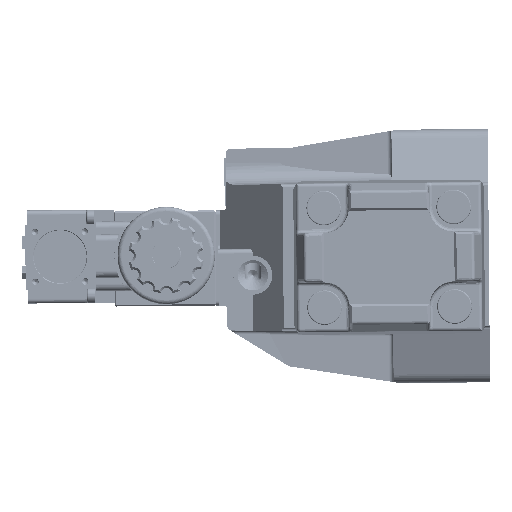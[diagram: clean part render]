
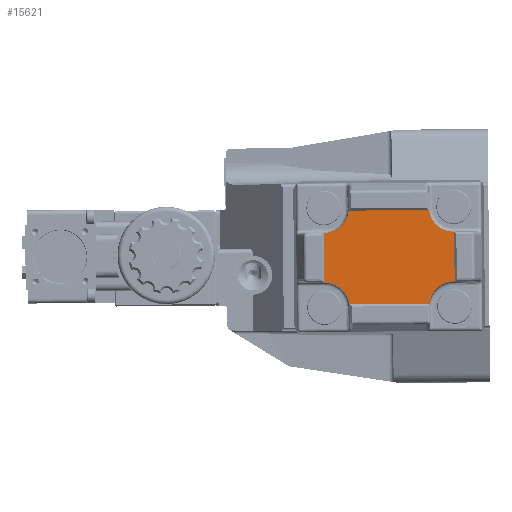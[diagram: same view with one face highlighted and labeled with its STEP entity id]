
A CAD part, left-side view. The second image highlights one B-rep face of the part: STEP entity #15621.
In plain terms, the highlighted planar face has unit normal (-1, 0, 0).
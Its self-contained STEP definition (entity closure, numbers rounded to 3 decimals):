
#12706=FACE_OUTER_BOUND('',#22832,.T.);
#15621=ADVANCED_FACE('',(#12706),#18068,.F.);
#18068=PLANE('',#64132);
#22832=EDGE_LOOP('',(#36052,#36053,#36054,#36055,#36056,#36057,#36058,#36059,
#36060,#36061,#36062,#36063));
#25280=B_SPLINE_CURVE_WITH_KNOTS('',3,(#196581,#196582,#196583,#196584,
#196585,#196586,#196587,#196588,#196589,#196590,#196591),.UNSPECIFIED.,
 .F.,.F.,(4,2,1,1,1,1,1,4),(0.,0.009,0.257,0.381,
0.504,0.628,0.752,1.),.UNSPECIFIED.);
#25308=B_SPLINE_CURVE_WITH_KNOTS('',3,(#197018,#197019,#197020,#197021),
 .UNSPECIFIED.,.F.,.F.,(4,4),(0.,1.),.UNSPECIFIED.);
#25353=B_SPLINE_CURVE_WITH_KNOTS('',3,(#197663,#197664,#197665,#197666,
#197667,#197668,#197669,#197670),.UNSPECIFIED.,.F.,.F.,(4,2,2,4),(0.,0.25,
0.5,1.),.UNSPECIFIED.);
#25354=B_SPLINE_CURVE_WITH_KNOTS('',3,(#197672,#197673,#197674,#197675,
#197676,#197677),.UNSPECIFIED.,.F.,.F.,(4,2,4),(0.,0.5,1.),
 .UNSPECIFIED.);
#25355=B_SPLINE_CURVE_WITH_KNOTS('',3,(#197679,#197680,#197681,#197682,
#197683,#197684),.UNSPECIFIED.,.F.,.F.,(4,2,4),(0.,0.5,1.),
 .UNSPECIFIED.);
#36052=ORIENTED_EDGE('',*,*,#51659,.T.);
#36053=ORIENTED_EDGE('',*,*,#51569,.T.);
#36054=ORIENTED_EDGE('',*,*,#51660,.F.);
#36055=ORIENTED_EDGE('',*,*,#51631,.F.);
#36056=ORIENTED_EDGE('',*,*,#51661,.T.);
#36057=ORIENTED_EDGE('',*,*,#51619,.T.);
#36058=ORIENTED_EDGE('',*,*,#51514,.T.);
#36059=ORIENTED_EDGE('',*,*,#51627,.F.);
#36060=ORIENTED_EDGE('',*,*,#51662,.T.);
#36061=ORIENTED_EDGE('',*,*,#51597,.F.);
#36062=ORIENTED_EDGE('',*,*,#51663,.T.);
#36063=ORIENTED_EDGE('',*,*,#51590,.F.);
#45538=VERTEX_POINT('',#196580);
#45539=VERTEX_POINT('',#196592);
#45593=VERTEX_POINT('',#197017);
#45594=VERTEX_POINT('',#197022);
#45612=VERTEX_POINT('',#197256);
#45613=VERTEX_POINT('',#197258);
#45617=VERTEX_POINT('',#197296);
#45618=VERTEX_POINT('',#197298);
#45631=VERTEX_POINT('',#197378);
#45635=VERTEX_POINT('',#197414);
#45637=VERTEX_POINT('',#197436);
#45638=VERTEX_POINT('',#197438);
#51514=EDGE_CURVE('',#45539,#45538,#25280,.T.);
#51569=EDGE_CURVE('',#45594,#45593,#25308,.T.);
#51590=EDGE_CURVE('',#45612,#45613,#56878,.T.);
#51597=EDGE_CURVE('',#45617,#45618,#56880,.T.);
#51619=EDGE_CURVE('',#45631,#45539,#56893,.T.);
#51627=EDGE_CURVE('',#45635,#45538,#56897,.T.);
#51631=EDGE_CURVE('',#45637,#45638,#56898,.T.);
#51659=EDGE_CURVE('',#45612,#45594,#25353,.T.);
#51660=EDGE_CURVE('',#45638,#45593,#56908,.T.);
#51661=EDGE_CURVE('',#45637,#45631,#25354,.T.);
#51662=EDGE_CURVE('',#45635,#45618,#56909,.T.);
#51663=EDGE_CURVE('',#45617,#45613,#25355,.T.);
#56878=LINE('',#197257,#59946);
#56880=LINE('',#197297,#59948);
#56893=LINE('',#197377,#59961);
#56897=LINE('',#197415,#59965);
#56898=LINE('',#197437,#59966);
#56908=LINE('',#197671,#59976);
#56909=LINE('',#197678,#59977);
#59946=VECTOR('',#74451,1.);
#59948=VECTOR('',#74457,1.);
#59961=VECTOR('',#74492,1.);
#59965=VECTOR('',#74500,1.);
#59966=VECTOR('',#74505,1.);
#59976=VECTOR('',#74535,1.);
#59977=VECTOR('',#74536,1.);
#64132=AXIS2_PLACEMENT_3D('',#197685,#74537,#74538);
#74451=DIRECTION('',(0.,0.009,1.));
#74457=DIRECTION('',(0.,0.009,1.));
#74492=DIRECTION('',(0.,0.009,1.));
#74500=DIRECTION('',(0.,0.009,1.));
#74505=DIRECTION('',(0.,-0.009,-1.));
#74535=DIRECTION('',(0.,1.,-0.009));
#74536=DIRECTION('',(0.,1.,-0.009));
#74537=DIRECTION('',(1.,0.,0.));
#74538=DIRECTION('',(0.,1.,-0.009));
#196580=CARTESIAN_POINT('',(-184.02,-53.341,214.543));
#196581=CARTESIAN_POINT('',(-184.02,-65.096,203.145));
#196582=CARTESIAN_POINT('',(-184.02,-65.045,203.144));
#196583=CARTESIAN_POINT('',(-184.02,-64.993,203.144));
#196584=CARTESIAN_POINT('',(-184.02,-63.483,203.131));
#196585=CARTESIAN_POINT('',(-184.02,-61.241,203.535));
#196586=CARTESIAN_POINT('',(-184.02,-58.522,204.944));
#196587=CARTESIAN_POINT('',(-184.02,-56.722,206.39));
#196588=CARTESIAN_POINT('',(-184.02,-55.247,208.166));
#196589=CARTESIAN_POINT('',(-184.02,-53.795,210.858));
#196590=CARTESIAN_POINT('',(-184.02,-53.354,213.088));
#196591=CARTESIAN_POINT('',(-184.02,-53.341,214.543));
#196592=CARTESIAN_POINT('',(-184.02,-65.096,203.145));
#197017=CARTESIAN_POINT('',(-184.02,-16.732,169.567));
#197018=CARTESIAN_POINT('',(-184.02,-16.73,169.86));
#197019=CARTESIAN_POINT('',(-184.02,-16.731,169.762));
#197020=CARTESIAN_POINT('',(-184.02,-16.731,169.664));
#197021=CARTESIAN_POINT('',(-184.02,-16.732,169.567));
#197022=CARTESIAN_POINT('',(-184.02,-16.73,169.86));
#197256=CARTESIAN_POINT('',(-184.02,-4.988,179.736));
#197257=CARTESIAN_POINT('',(-184.02,-5.325,141.121));
#197258=CARTESIAN_POINT('',(-184.02,-4.789,202.502));
#197296=CARTESIAN_POINT('',(-184.02,-16.357,212.581));
#197297=CARTESIAN_POINT('',(-184.02,-16.98,141.223));
#197298=CARTESIAN_POINT('',(-184.02,-16.354,212.875));
#197377=CARTESIAN_POINT('',(-184.02,-65.633,141.647));
#197378=CARTESIAN_POINT('',(-184.02,-65.296,180.262));
#197414=CARTESIAN_POINT('',(-184.02,-53.353,213.198));
#197415=CARTESIAN_POINT('',(-184.02,-53.978,141.545));
#197436=CARTESIAN_POINT('',(-184.02,-53.728,170.182));
#197437=CARTESIAN_POINT('',(-184.02,-53.978,141.545));
#197438=CARTESIAN_POINT('',(-184.02,-53.731,169.889));
#197663=CARTESIAN_POINT('',(-184.02,-4.988,179.736));
#197664=CARTESIAN_POINT('',(-184.02,-6.393,179.748));
#197665=CARTESIAN_POINT('',(-184.02,-7.793,179.54));
#197666=CARTESIAN_POINT('',(-184.02,-10.426,178.613));
#197667=CARTESIAN_POINT('',(-184.02,-11.662,177.902));
#197668=CARTESIAN_POINT('',(-184.02,-14.849,175.225));
#197669=CARTESIAN_POINT('',(-184.02,-16.309,172.636));
#197670=CARTESIAN_POINT('',(-184.02,-16.73,169.86));
#197671=CARTESIAN_POINT('',(-184.02,-85.23,170.164));
#197672=CARTESIAN_POINT('',(-184.02,-53.728,170.182));
#197673=CARTESIAN_POINT('',(-184.02,-54.1,172.963));
#197674=CARTESIAN_POINT('',(-184.02,-55.519,175.582));
#197675=CARTESIAN_POINT('',(-184.02,-59.705,179.226));
#197676=CARTESIAN_POINT('',(-184.02,-62.485,180.238));
#197677=CARTESIAN_POINT('',(-184.02,-65.296,180.262));
#197678=CARTESIAN_POINT('',(-184.02,-84.852,213.473));
#197679=CARTESIAN_POINT('',(-184.02,-16.357,212.581));
#197680=CARTESIAN_POINT('',(-184.02,-15.985,209.8));
#197681=CARTESIAN_POINT('',(-184.02,-14.567,207.18));
#197682=CARTESIAN_POINT('',(-184.02,-10.379,203.539));
#197683=CARTESIAN_POINT('',(-184.02,-7.6,202.526));
#197684=CARTESIAN_POINT('',(-184.02,-4.789,202.502));
#197685=CARTESIAN_POINT('',(-184.02,-35.479,141.384));
